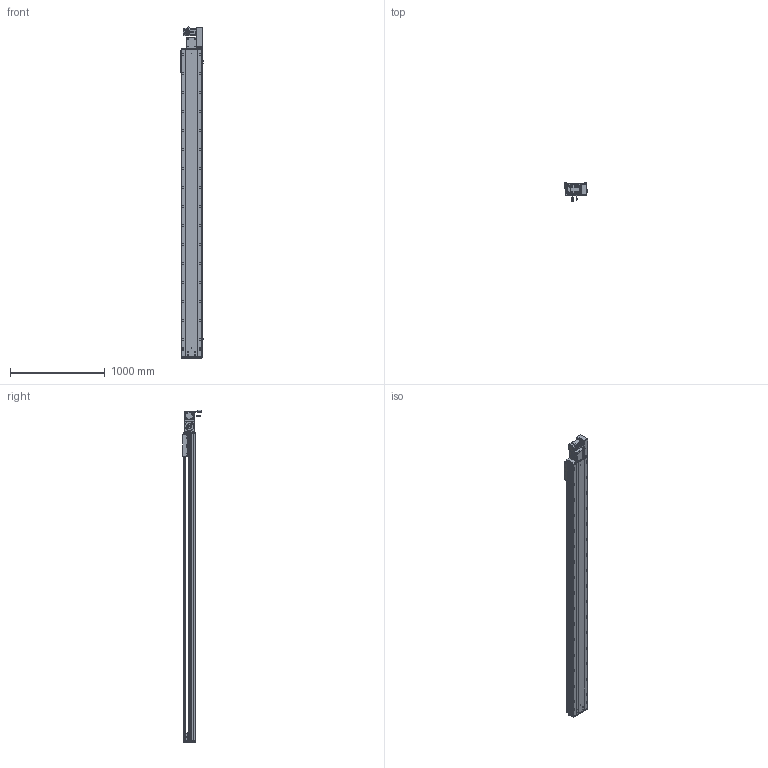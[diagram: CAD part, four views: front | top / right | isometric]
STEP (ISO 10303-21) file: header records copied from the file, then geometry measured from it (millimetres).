
FILE_DESCRIPTION (( 'STEP AP203' ), '1' );
FILE_NAME ('RY220-T-300-RK.SLDASM_2900.step', '2022-07-25T08:25:40', ( '' ), ( '' ), 'SwSTEP 2.0', 'SolidWorks 2016', '' );
FILE_SCHEMA (( 'CONFIG_CONTROL_DESIGN' ));
Length unit declared in the file: millimetre
Products named in the file (14): RY220-同步轮副支撑座6304×2; RY220-T-蛌殏萇儂假蚾啣(750W); RY220-T-300-奻裔啣_2900; RY220圉猾敕々湍臏賑輸; RY220-T菁釱-300_2900; RY220-T-湍謫欶(鍼踢); 滅袉蝶18-15; 覜茼ん672; 110A-T-肮祭謫釱傷裔; RY220翋肮祭謫裔啣; RY220翋肮祭謫釱; 怢湛750W_ECMA-CX0807ES; RY220-俋离672覜茼んえ; RY220-T-300-RK.SLDASM_2900
Assembly tree (18 placements, depth 2):
  RY220-T-300-RK.SLDASM_2900
    RY220-T菁釱-300_2900
    RY220翋肮祭謫釱
    覜茼ん672  x3
    RY220圉猾敕々湍臏賑輸
    RY220-T-300-奻裔啣_2900
    RY220-俋离672覜茼んえ
    滅袉蝶18-15  x3
    RY220翋肮祭謫裔啣  x2
    110A-T-肮祭謫釱傷裔
    怢湛750W_ECMA-CX0807ES
    RY220-T-湍謫欶(鍼踢)
    RY220-T-蛌殏萇儂假蚾啣(750W)
    RY220-同步轮副支撑座6304×2
Bounding box: 238.7 x 198.77 x 3495.24 mm (x, y, z)
Volume: 24554763 mm3; surface area: 7588382.2 mm2
Topology: 19 solids, 19 shells, 3012 faces, 8335 edges, 5220 vertices
Faces by surface type: cylinder 1488, plane 1069, cone 373, bspline 56, sphere 16, torus 10
Entity records: 100515 total; most frequent: CARTESIAN_POINT 28367, ORIENTED_EDGE 14906, DIRECTION 14396, EDGE_CURVE 7453, AXIS2_PLACEMENT_3D 5198, VERTEX_POINT 4844, LINE 4000, VECTOR 4000
